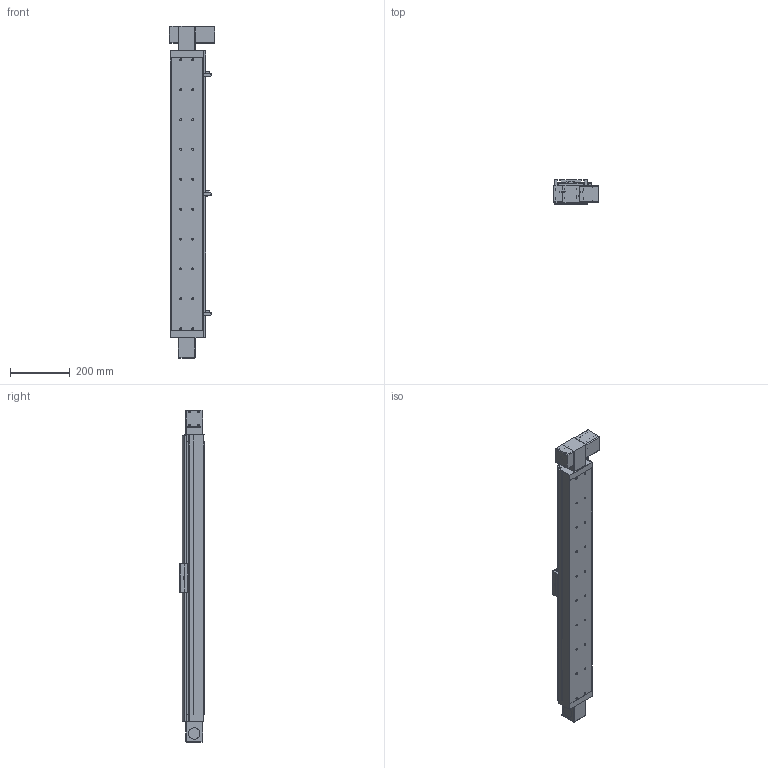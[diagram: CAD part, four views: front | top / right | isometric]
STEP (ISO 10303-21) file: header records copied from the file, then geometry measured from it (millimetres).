
FILE_DESCRIPTION((''),'2;1');
FILE_NAME('E:\uia actuator\UIA actuator 3d- 2015\Belt drive actuator\UIA110BR12(15)DC\UIA110BR12(15)DC-STEP FILE\UIA110BR12(15) stp file 13May16\UIA110BR12(15)DC-800-M23-P13-C10-S.stp','2016-05-13T16:00:14',('h029'),(''),'Autodesk Inventor 11','Autodesk Inventor 11','');
FILE_SCHEMA(('AUTOMOTIVE_DESIGN { 1 0 10303 214 1 1 1 1 }'));
Length unit declared in the file: millimetre
Products named in the file (11): UIA110BR12(15)DC-800; UIA110BR12(15)DC-800-body; UIA110BR12(15)DC-800-Sensor rail; UIA110B-Carriage; UIA110B- Sensor Flag; UIA110B-Cover; SOH-32C; SOH-32C-3; SOH-32C-1; SOH-32C-2; Motor mount
Assembly tree (10 placements, depth 3):
  UIA110BR12(15)DC-800
    UIA110BR12(15)DC-800-body
    UIA110BR12(15)DC-800-Sensor rail
    UIA110B-Carriage
    UIA110B- Sensor Flag
    UIA110B-Cover
    SOH-32C
      SOH-32C-3
      SOH-32C-1
      SOH-32C-2
    Motor mount
Bounding box: 152 x 81 x 1111 mm (x, y, z)
Volume: 3459436 mm3; surface area: 975578.5 mm2
Topology: 9 solids, 13 shells, 756 faces, 2122 edges, 1360 vertices
Faces by surface type: plane 471, cylinder 195, cone 42, bspline 40, sphere 8
Full cylindrical faces by diameter (mm): 2.459 x4, 3 x2, 3.242 x8, 3.5 x4, 4 x10, 4.5 x4, 4.917 x8, 5 x2, 6.35 x1, 6.5 x20, 7.5 x4, 10 x3, 11 x20, 12 x1, 20 x2, 32 x3, 37 x1, 38.1 x1, 39 x2, 43.5 x1, 46 x2
Entity records: 25258 total; most frequent: CARTESIAN_POINT 6397, DIRECTION 3855, ORIENTED_EDGE 3678, EDGE_CURVE 1839, AXIS2_PLACEMENT_3D 1324, VERTEX_POINT 1264, VECTOR 1207, LINE 1207
